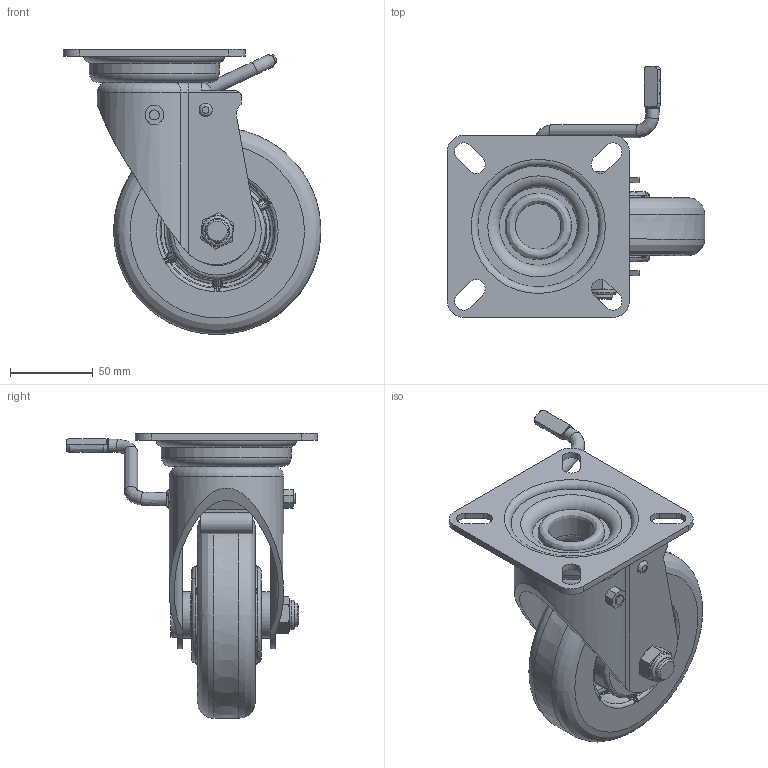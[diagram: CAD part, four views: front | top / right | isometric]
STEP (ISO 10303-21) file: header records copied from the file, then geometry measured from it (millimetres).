
FILE_DESCRIPTION(/* description */ (''),/* implementation_level */ '2;1');
FILE_NAME(/* name */ '25X11_5_F.stp',/* time_stamp */ '2023-03-24T13:17:22+08:00',/* author */ (''),/* organization */ (''),/* preprocessor_version */ 'ST-DEVELOPER v14',/* originating_system */ 'SIEMENS PLM Software NX 8.0',/* authorisation */ '');
FILE_SCHEMA (('AUTOMOTIVE_DESIGN { 1 0 10303 214 3 1 1 1 }'));
Length unit declared in the file: millimetre
Products named in the file (1): 25X11_5_F
Bounding box: 155.5 x 151.55 x 172 mm (x, y, z)
Volume: 536891.9 mm3; surface area: 162938.2 mm2
Topology: 1 solids, 2 shells, 931 faces, 2352 edges, 1464 vertices
Faces by surface type: plane 385, bspline 260, cylinder 170, cone 55, torus 54, revolution 4, sphere 2, extrusion 1
Full cylindrical faces by diameter (mm): 6 x3, 6.1 x3, 14 x1, 15 x2, 17 x1, 18 x1, 20.5 x1, 24.188 x3, 27 x1, 28 x2, 32.8 x1, 32.812 x2, 37.5 x1, 39.85 x2, 40 x2, 43.2 x1, 43.3 x1, 73.5 x1, 78.5 x1
Entity records: 33972 total; most frequent: CARTESIAN_POINT 14442, ORIENTED_EDGE 4454, DIRECTION 3373, EDGE_CURVE 2227, VERTEX_POINT 1421, AXIS2_PLACEMENT_3D 1351, EDGE_LOOP 1088, ADVANCED_FACE 931
